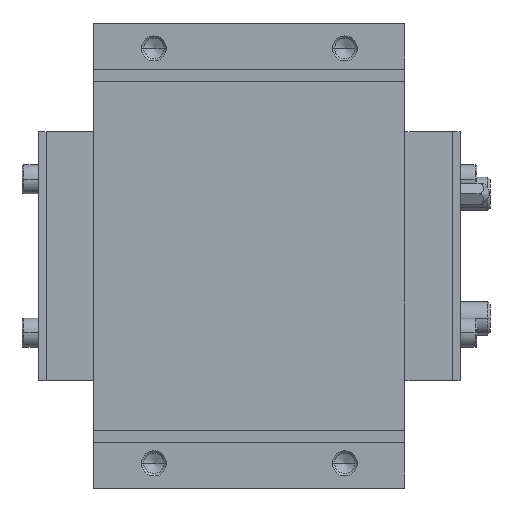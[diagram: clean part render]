
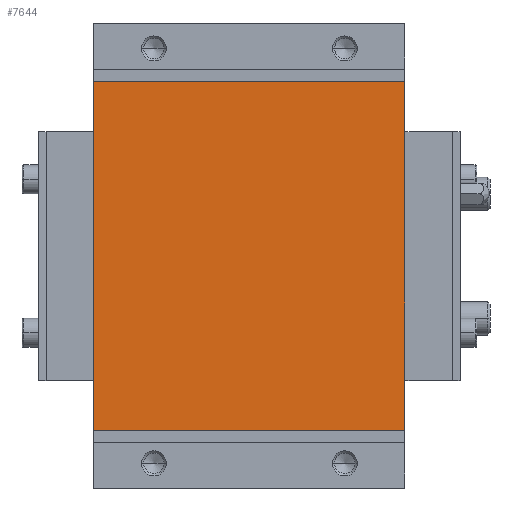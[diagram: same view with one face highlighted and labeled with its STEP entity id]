
A CAD part, top view. The second image highlights one B-rep face of the part: STEP entity #7644.
In plain terms, the highlighted planar face has unit normal (0, 0, 1).
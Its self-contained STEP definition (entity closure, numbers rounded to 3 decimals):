
#720 = CARTESIAN_POINT ( 'NONE',  ( 474.2, 42., 27. ) ) ;
#948 = LINE ( 'NONE', #10614, #9494 ) ;
#1136 = VERTEX_POINT ( 'NONE', #12702 ) ;
#2048 = VECTOR ( 'NONE', #10377, 1000. ) ;
#2477 = VERTEX_POINT ( 'NONE', #11797 ) ;
#3292 = VECTOR ( 'NONE', #6554, 1000. ) ;
#3314 = FACE_OUTER_BOUND ( 'NONE', #10673, .T. ) ;
#3774 = LINE ( 'NONE', #8559, #3292 ) ;
#4088 = EDGE_CURVE ( 'NONE', #7498, #1136, #4431, .T. ) ;
#4217 = ORIENTED_EDGE ( 'NONE', *, *, #4088, .F. ) ;
#4337 = AXIS2_PLACEMENT_3D ( 'NONE', #11165, #12317, #8169 ) ;
#4425 = PLANE ( 'NONE',  #4337 ) ;
#4431 = LINE ( 'NONE', #720, #11751 ) ;
#4791 = DIRECTION ( 'NONE',  ( 0., 1., 0. ) ) ;
#6205 = EDGE_CURVE ( 'NONE', #7895, #1136, #948, .T. ) ;
#6554 = DIRECTION ( 'NONE',  ( 0., -1., 0. ) ) ;
#7333 = EDGE_CURVE ( 'NONE', #7498, #2477, #3774, .T. ) ;
#7498 = VERTEX_POINT ( 'NONE', #8093 ) ;
#7644 = ADVANCED_FACE ( 'NONE', ( #3314 ), #4425, .F. ) ;
#7793 = EDGE_CURVE ( 'NONE', #2477, #7895, #11418, .T. ) ;
#7895 = VERTEX_POINT ( 'NONE', #8873 ) ;
#8093 = CARTESIAN_POINT ( 'NONE',  ( 487.5, 42., 27. ) ) ;
#8169 = DIRECTION ( 'NONE',  ( 0., 1., 0. ) ) ;
#8559 = CARTESIAN_POINT ( 'NONE',  ( 487.5, 29.99, 27. ) ) ;
#8873 = CARTESIAN_POINT ( 'NONE',  ( 562.5, -42., 27. ) ) ;
#8904 = ORIENTED_EDGE ( 'NONE', *, *, #6205, .T. ) ;
#9494 = VECTOR ( 'NONE', #4791, 1000. ) ;
#10377 = DIRECTION ( 'NONE',  ( 1., 0., 0. ) ) ;
#10568 = ORIENTED_EDGE ( 'NONE', *, *, #7333, .T. ) ;
#10614 = CARTESIAN_POINT ( 'NONE',  ( 562.5, -42., 27. ) ) ;
#10673 = EDGE_LOOP ( 'NONE', ( #10568, #11591, #8904, #4217 ) ) ;
#11165 = CARTESIAN_POINT ( 'NONE',  ( 474.2, -42., 27. ) ) ;
#11418 = LINE ( 'NONE', #12444, #2048 ) ;
#11556 = DIRECTION ( 'NONE',  ( 1., 0., 0. ) ) ;
#11591 = ORIENTED_EDGE ( 'NONE', *, *, #7793, .T. ) ;
#11751 = VECTOR ( 'NONE', #11556, 1000. ) ;
#11797 = CARTESIAN_POINT ( 'NONE',  ( 487.5, -42., 27. ) ) ;
#12317 = DIRECTION ( 'NONE',  ( 0., 0., -1. ) ) ;
#12444 = CARTESIAN_POINT ( 'NONE',  ( 474.2, -42., 27. ) ) ;
#12702 = CARTESIAN_POINT ( 'NONE',  ( 562.5, 42., 27. ) ) ;
